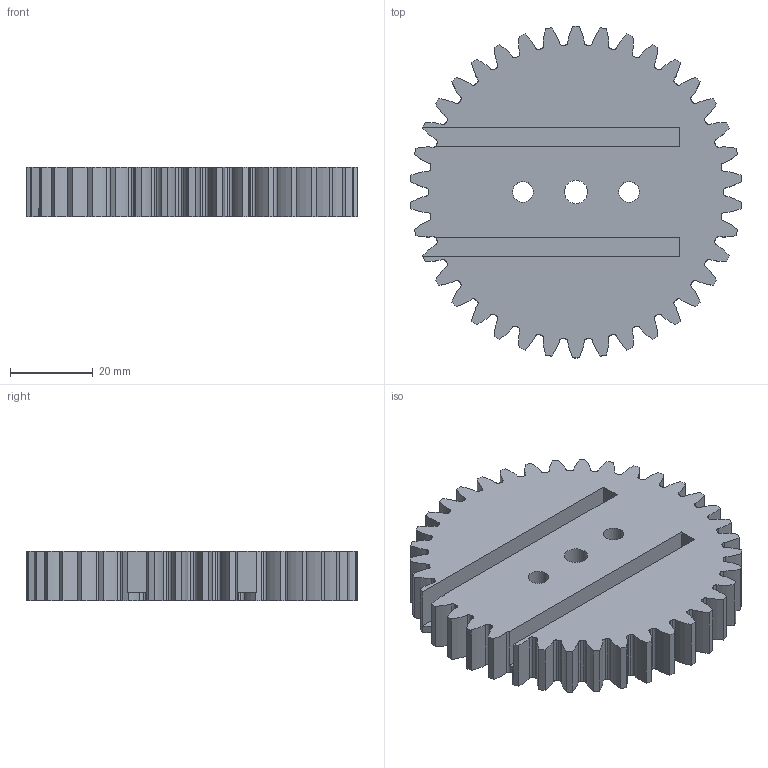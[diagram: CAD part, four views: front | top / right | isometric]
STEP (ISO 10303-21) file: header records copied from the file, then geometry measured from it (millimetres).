
FILE_DESCRIPTION(('STEP AP242 Edition 2','STEP AP242 Edition 2''CAx-IF Rec.Pracs.---Representation and Presentation of Product Manufacturing Information (PMI)---4.0---2014-10-13','STEP AP242 Edition 2''CAx-IF Rec.Pracs.---Representation and Presentation of Product Manufacturing Information (PMI)---4.0---2014-10-13''CAx-IF Rec.Pracs.---3D Tessellated Geometry---0.4---2014-09-14','STEP AP242 Edition 2''CAx-IF Rec.Pracs.---Representation and Presentation of Product Manufacturing Information (PMI)---4.0---2014-10-13''CAx-IF Rec.Pracs.---3D Tessellated Geometry---0.4---2014-09-14''2;1','STEP AP242 Edition 2''CAx-IF Rec.Pracs.---Representation and Presentation of Product Manufacturing Information (PMI)---4.0---2014-10-13''CAx-IF Rec.Pracs.---3D Tessellated Geometry---0.4---2014-09-14''2;1''CAx-IF Rec.Pracs.---User Defined Attributes---1.5---2016-08-15'),'2;1');
FILE_NAME('/vol/tmp/translate-14401604097595689374/outputGearSmaller - Spur gear (38 teeth).step','2026-03-05T22:43:15',(''),(''),'ST-DEVELOPER v20','ONSHAPE BY PTC INC, 1.211',' ');
FILE_SCHEMA(('AP242_MANAGED_MODEL_BASED_3D_ENGINEERING_MIM_LF { 1 0 10303 442 3 1 4 }'));
Length unit declared in the file: metre
Products named in the file (1): Spur gear (38 teeth)
Bounding box: 79.84 x 80 x 12 mm (x, y, z)
Volume: 47132.4 mm3; surface area: 17667.1 mm2
Topology: 1 solids, 1 shells, 245 faces, 723 edges, 482 vertices
Faces by surface type: cylinder 157, bspline 76, plane 12
Full cylindrical faces by diameter (mm): 5 x2, 5.6 x1, 11.5 x2
Entity records: 12732 total; most frequent: CARTESIAN_POINT 6386, ORIENTED_EDGE 1436, DIRECTION 1224, EDGE_CURVE 718, AXIS2_PLACEMENT_3D 488, VERTEX_POINT 482, CIRCLE 318, EDGE_LOOP 258
